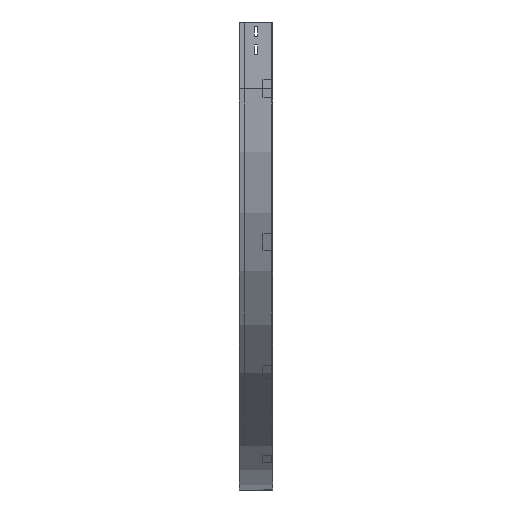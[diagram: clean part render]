
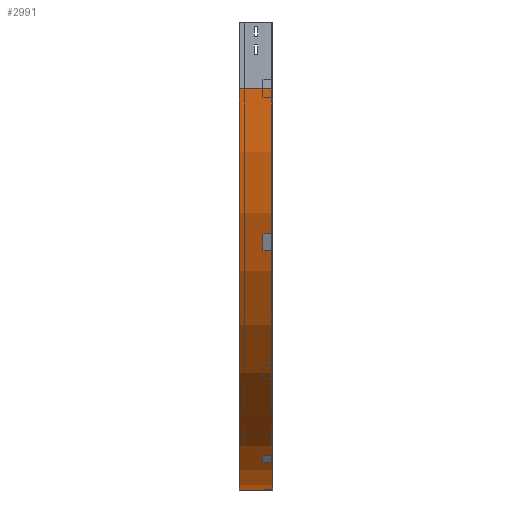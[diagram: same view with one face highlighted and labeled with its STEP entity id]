
A CAD part, left-side view. The second image highlights one B-rep face of the part: STEP entity #2991.
In plain terms, the highlighted cylindrical face has radius 900 mm (diameter 1800 mm), a partial arc.
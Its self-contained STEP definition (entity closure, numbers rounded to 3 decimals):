
#55 = VECTOR ( 'NONE', #3677, 1000. ) ;
#271 = CARTESIAN_POINT ( 'NONE',  ( 900., 75., -150. ) ) ;
#353 = VERTEX_POINT ( 'NONE', #2796 ) ;
#358 = EDGE_LOOP ( 'NONE', ( #3096, #2664, #3106, #2014 ) ) ;
#425 = CARTESIAN_POINT ( 'NONE',  ( 900., 0., -1050. ) ) ;
#512 = DIRECTION ( 'NONE',  ( 0., -1., 0. ) ) ;
#572 = DIRECTION ( 'NONE',  ( -1., 0., 0. ) ) ;
#875 = VECTOR ( 'NONE', #3156, 1000. ) ;
#1086 = VERTEX_POINT ( 'NONE', #2584 ) ;
#1180 = AXIS2_PLACEMENT_3D ( 'NONE', #271, #2679, #3850 ) ;
#1279 = LINE ( 'NONE', #2265, #55 ) ;
#1323 = LINE ( 'NONE', #1973, #875 ) ;
#1500 = CARTESIAN_POINT ( 'NONE',  ( 900., 0., -150. ) ) ;
#1973 = CARTESIAN_POINT ( 'NONE',  ( 0., 0., -150. ) ) ;
#2014 = ORIENTED_EDGE ( 'NONE', *, *, #3633, .T. ) ;
#2194 = FACE_OUTER_BOUND ( 'NONE', #358, .T. ) ;
#2265 = CARTESIAN_POINT ( 'NONE',  ( 900., 0., -1050. ) ) ;
#2313 = AXIS2_PLACEMENT_3D ( 'NONE', #1500, #2700, #2864 ) ;
#2568 = CIRCLE ( 'NONE', #3735, 900. ) ;
#2584 = CARTESIAN_POINT ( 'NONE',  ( 0., 75., -150. ) ) ;
#2664 = ORIENTED_EDGE ( 'NONE', *, *, #3029, .F. ) ;
#2679 = DIRECTION ( 'NONE',  ( 0., -1., 0. ) ) ;
#2700 = DIRECTION ( 'NONE',  ( 0., -1., 0. ) ) ;
#2720 = VERTEX_POINT ( 'NONE', #425 ) ;
#2796 = CARTESIAN_POINT ( 'NONE',  ( 900., 75., -1050. ) ) ;
#2864 = DIRECTION ( 'NONE',  ( 0., 0., -1. ) ) ;
#2959 = CARTESIAN_POINT ( 'NONE',  ( 900., 0., -150. ) ) ;
#2991 = ADVANCED_FACE ( 'NONE', ( #2194 ), #3370, .T. ) ;
#3029 = EDGE_CURVE ( 'NONE', #1086, #3369, #1323, .T. ) ;
#3096 = ORIENTED_EDGE ( 'NONE', *, *, #3132, .F. ) ;
#3106 = ORIENTED_EDGE ( 'NONE', *, *, #3139, .T. ) ;
#3132 = EDGE_CURVE ( 'NONE', #3369, #2720, #2568, .T. ) ;
#3139 = EDGE_CURVE ( 'NONE', #1086, #353, #3864, .T. ) ;
#3156 = DIRECTION ( 'NONE',  ( 0., -1., 0. ) ) ;
#3369 = VERTEX_POINT ( 'NONE', #3437 ) ;
#3370 = CYLINDRICAL_SURFACE ( 'NONE', #2313, 900. ) ;
#3437 = CARTESIAN_POINT ( 'NONE',  ( 0., 0., -150. ) ) ;
#3633 = EDGE_CURVE ( 'NONE', #353, #2720, #1279, .T. ) ;
#3677 = DIRECTION ( 'NONE',  ( 0., -1., 0. ) ) ;
#3735 = AXIS2_PLACEMENT_3D ( 'NONE', #2959, #512, #572 ) ;
#3850 = DIRECTION ( 'NONE',  ( -1., 0., 0. ) ) ;
#3864 = CIRCLE ( 'NONE', #1180, 900. ) ;
